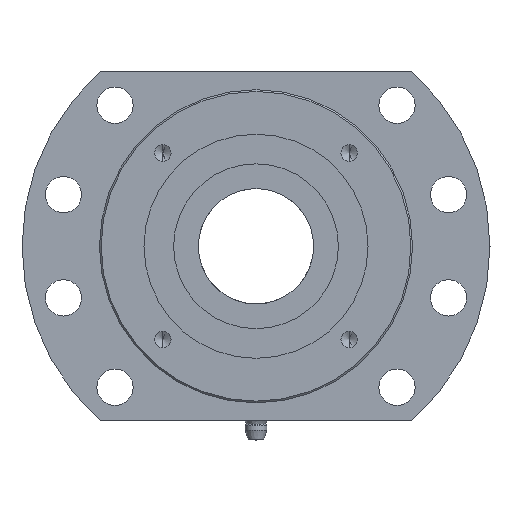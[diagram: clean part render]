
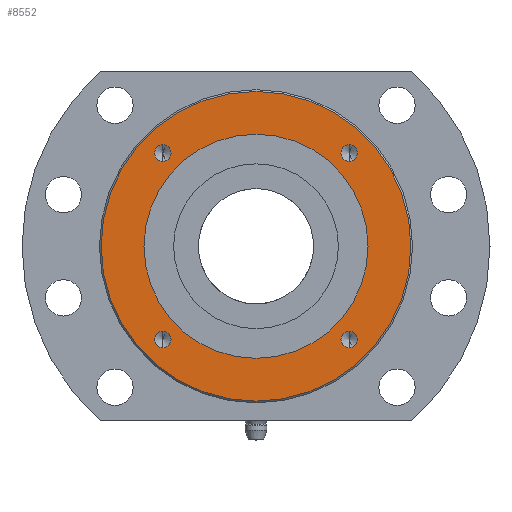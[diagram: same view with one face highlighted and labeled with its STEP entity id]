
A CAD part, left-side view. The second image highlights one B-rep face of the part: STEP entity #8552.
In plain terms, the highlighted planar face has unit normal (-1, 0, 0).
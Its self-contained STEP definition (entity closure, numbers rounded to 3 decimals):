
#206 = DIRECTION ( 'NONE',  ( 0., 1., 0. ) ) ;
#251 = EDGE_LOOP ( 'NONE', ( #21697, #4944 ) ) ;
#479 = ORIENTED_EDGE ( 'NONE', *, *, #3162, .F. ) ;
#1215 = CIRCLE ( 'NONE', #10796, 2.5 ) ;
#1422 = CARTESIAN_POINT ( 'NONE',  ( 0., -28.284, -28.284 ) ) ;
#1443 = DIRECTION ( 'NONE',  ( 0., 0., 1. ) ) ;
#1482 = EDGE_CURVE ( 'NONE', #13618, #5633, #9174, .T. ) ;
#1582 = DIRECTION ( 'NONE',  ( -1., 0., 0. ) ) ;
#1602 = VERTEX_POINT ( 'NONE', #15608 ) ;
#1621 = FACE_BOUND ( 'NONE', #3375, .T. ) ;
#2289 = CIRCLE ( 'NONE', #3981, 2.5 ) ;
#2592 = DIRECTION ( 'NONE',  ( 0., 0., 1. ) ) ;
#3051 = CIRCLE ( 'NONE', #21171, 2.5 ) ;
#3097 = ORIENTED_EDGE ( 'NONE', *, *, #20788, .F. ) ;
#3162 = EDGE_CURVE ( 'NONE', #9562, #6832, #2289, .T. ) ;
#3211 = CIRCLE ( 'NONE', #10756, 34. ) ;
#3286 = CIRCLE ( 'NONE', #17120, 2.5 ) ;
#3290 = EDGE_CURVE ( 'NONE', #7206, #17055, #4485, .T. ) ;
#3375 = EDGE_LOOP ( 'NONE', ( #6661, #22630 ) ) ;
#3562 = FACE_BOUND ( 'NONE', #11347, .T. ) ;
#3614 = ORIENTED_EDGE ( 'NONE', *, *, #22366, .F. ) ;
#3862 = EDGE_CURVE ( 'NONE', #6942, #4872, #15180, .T. ) ;
#3981 = AXIS2_PLACEMENT_3D ( 'NONE', #9516, #14949, #16864 ) ;
#4485 = CIRCLE ( 'NONE', #7905, 34. ) ;
#4872 = VERTEX_POINT ( 'NONE', #11011 ) ;
#4905 = DIRECTION ( 'NONE',  ( -1., 0., 0. ) ) ;
#4907 = AXIS2_PLACEMENT_3D ( 'NONE', #1422, #13639, #15467 ) ;
#4931 = CARTESIAN_POINT ( 'NONE',  ( 0., -28.284, 28.284 ) ) ;
#4944 = ORIENTED_EDGE ( 'NONE', *, *, #8035, .F. ) ;
#4961 = AXIS2_PLACEMENT_3D ( 'NONE', #22633, #1582, #13651 ) ;
#5007 = EDGE_LOOP ( 'NONE', ( #20610, #3097 ) ) ;
#5295 = ORIENTED_EDGE ( 'NONE', *, *, #9500, .F. ) ;
#5428 = CARTESIAN_POINT ( 'NONE',  ( 0., 0., 0. ) ) ;
#5633 = VERTEX_POINT ( 'NONE', #18001 ) ;
#5752 = AXIS2_PLACEMENT_3D ( 'NONE', #4931, #18994, #10291 ) ;
#6024 = DIRECTION ( 'NONE',  ( -1., 0., 0. ) ) ;
#6099 = CARTESIAN_POINT ( 'NONE',  ( 0., -28.284, -28.284 ) ) ;
#6175 = DIRECTION ( 'NONE',  ( 0., 0., 1. ) ) ;
#6297 = CARTESIAN_POINT ( 'NONE',  ( 0., 28.284, 30.784 ) ) ;
#6661 = ORIENTED_EDGE ( 'NONE', *, *, #3290, .F. ) ;
#6832 = VERTEX_POINT ( 'NONE', #11157 ) ;
#6942 = VERTEX_POINT ( 'NONE', #8309 ) ;
#7006 = DIRECTION ( 'NONE',  ( 0., -1., 0. ) ) ;
#7206 = VERTEX_POINT ( 'NONE', #13263 ) ;
#7671 = EDGE_CURVE ( 'NONE', #19740, #11300, #13135, .T. ) ;
#7684 = CARTESIAN_POINT ( 'NONE',  ( 0., -28.284, 28.284 ) ) ;
#7905 = AXIS2_PLACEMENT_3D ( 'NONE', #22268, #4905, #9883 ) ;
#7908 = DIRECTION ( 'NONE',  ( -1., 0., 0. ) ) ;
#8035 = EDGE_CURVE ( 'NONE', #5633, #13618, #3051, .T. ) ;
#8095 = CIRCLE ( 'NONE', #13850, 2.5 ) ;
#8309 = CARTESIAN_POINT ( 'NONE',  ( 0., -28.284, 30.784 ) ) ;
#8552 = ADVANCED_FACE ( 'NONE', ( #11493, #15574, #3562, #21592, #1621, #8706 ), #12615, .F. ) ;
#8601 = EDGE_CURVE ( 'NONE', #19936, #1602, #3286, .T. ) ;
#8706 = FACE_OUTER_BOUND ( 'NONE', #15439, .T. ) ;
#9174 = CIRCLE ( 'NONE', #4907, 2.5 ) ;
#9500 = EDGE_CURVE ( 'NONE', #4872, #6942, #20703, .T. ) ;
#9516 = CARTESIAN_POINT ( 'NONE',  ( 0., 28.284, -28.284 ) ) ;
#9562 = VERTEX_POINT ( 'NONE', #10468 ) ;
#9883 = DIRECTION ( 'NONE',  ( 0., -1., 0. ) ) ;
#10131 = DIRECTION ( 'NONE',  ( -1., 0., 0. ) ) ;
#10291 = DIRECTION ( 'NONE',  ( 0., 0., 1. ) ) ;
#10428 = CARTESIAN_POINT ( 'NONE',  ( 0., 28.284, -28.284 ) ) ;
#10468 = CARTESIAN_POINT ( 'NONE',  ( 0., 28.284, -30.784 ) ) ;
#10509 = DIRECTION ( 'NONE',  ( -1., 0., 0. ) ) ;
#10756 = AXIS2_PLACEMENT_3D ( 'NONE', #5428, #15707, #7006 ) ;
#10796 = AXIS2_PLACEMENT_3D ( 'NONE', #10428, #10131, #1443 ) ;
#10936 = CARTESIAN_POINT ( 'NONE',  ( 0., 34., 0. ) ) ;
#11011 = CARTESIAN_POINT ( 'NONE',  ( 0., -28.284, 25.784 ) ) ;
#11123 = DIRECTION ( 'NONE',  ( -1., 0., 0. ) ) ;
#11157 = CARTESIAN_POINT ( 'NONE',  ( 0., 28.284, -25.784 ) ) ;
#11300 = VERTEX_POINT ( 'NONE', #15519 ) ;
#11347 = EDGE_LOOP ( 'NONE', ( #3614, #479 ) ) ;
#11493 = FACE_BOUND ( 'NONE', #17697, .T. ) ;
#11652 = AXIS2_PLACEMENT_3D ( 'NONE', #7684, #11123, #21728 ) ;
#12164 = CARTESIAN_POINT ( 'NONE',  ( 0., -28.284, -25.784 ) ) ;
#12410 = CARTESIAN_POINT ( 'NONE',  ( 0., 28.284, 28.284 ) ) ;
#12420 = DIRECTION ( 'NONE',  ( 0., -1., 0. ) ) ;
#12494 = CARTESIAN_POINT ( 'NONE',  ( 0., 47., 0. ) ) ;
#12615 = PLANE ( 'NONE',  #20609 ) ;
#13034 = CARTESIAN_POINT ( 'NONE',  ( 0., 28.284, 28.284 ) ) ;
#13135 = CIRCLE ( 'NONE', #19567, 47. ) ;
#13263 = CARTESIAN_POINT ( 'NONE',  ( 0., -34., 0. ) ) ;
#13618 = VERTEX_POINT ( 'NONE', #12164 ) ;
#13639 = DIRECTION ( 'NONE',  ( -1., 0., 0. ) ) ;
#13651 = DIRECTION ( 'NONE',  ( 0., -1., 0. ) ) ;
#13850 = AXIS2_PLACEMENT_3D ( 'NONE', #13034, #7908, #2592 ) ;
#14101 = DIRECTION ( 'NONE',  ( 0., 0., 1. ) ) ;
#14561 = DIRECTION ( 'NONE',  ( -1., 0., 0. ) ) ;
#14949 = DIRECTION ( 'NONE',  ( -1., 0., 0. ) ) ;
#15180 = CIRCLE ( 'NONE', #5752, 2.5 ) ;
#15439 = EDGE_LOOP ( 'NONE', ( #19797, #16412 ) ) ;
#15467 = DIRECTION ( 'NONE',  ( 0., 0., 1. ) ) ;
#15519 = CARTESIAN_POINT ( 'NONE',  ( 0., -47., 0. ) ) ;
#15574 = FACE_BOUND ( 'NONE', #251, .T. ) ;
#15608 = CARTESIAN_POINT ( 'NONE',  ( 0., 28.284, 25.784 ) ) ;
#15707 = DIRECTION ( 'NONE',  ( -1., 0., 0. ) ) ;
#16412 = ORIENTED_EDGE ( 'NONE', *, *, #20612, .T. ) ;
#16676 = ORIENTED_EDGE ( 'NONE', *, *, #3862, .F. ) ;
#16864 = DIRECTION ( 'NONE',  ( 0., 0., 1. ) ) ;
#17055 = VERTEX_POINT ( 'NONE', #18324 ) ;
#17120 = AXIS2_PLACEMENT_3D ( 'NONE', #12410, #14561, #14101 ) ;
#17312 = CARTESIAN_POINT ( 'NONE',  ( 0., 0., 0. ) ) ;
#17697 = EDGE_LOOP ( 'NONE', ( #16676, #5295 ) ) ;
#18001 = CARTESIAN_POINT ( 'NONE',  ( 0., -28.284, -30.784 ) ) ;
#18324 = CARTESIAN_POINT ( 'NONE',  ( 0., 34., 0. ) ) ;
#18507 = CIRCLE ( 'NONE', #4961, 47. ) ;
#18994 = DIRECTION ( 'NONE',  ( -1., 0., 0. ) ) ;
#19489 = DIRECTION ( 'NONE',  ( 1., 0., 0. ) ) ;
#19567 = AXIS2_PLACEMENT_3D ( 'NONE', #17312, #10509, #12420 ) ;
#19740 = VERTEX_POINT ( 'NONE', #12494 ) ;
#19797 = ORIENTED_EDGE ( 'NONE', *, *, #7671, .T. ) ;
#19936 = VERTEX_POINT ( 'NONE', #6297 ) ;
#20609 = AXIS2_PLACEMENT_3D ( 'NONE', #10936, #19489, #206 ) ;
#20610 = ORIENTED_EDGE ( 'NONE', *, *, #8601, .F. ) ;
#20612 = EDGE_CURVE ( 'NONE', #11300, #19740, #18507, .T. ) ;
#20667 = EDGE_CURVE ( 'NONE', #17055, #7206, #3211, .T. ) ;
#20703 = CIRCLE ( 'NONE', #11652, 2.5 ) ;
#20788 = EDGE_CURVE ( 'NONE', #1602, #19936, #8095, .T. ) ;
#21171 = AXIS2_PLACEMENT_3D ( 'NONE', #6099, #6024, #6175 ) ;
#21592 = FACE_BOUND ( 'NONE', #5007, .T. ) ;
#21697 = ORIENTED_EDGE ( 'NONE', *, *, #1482, .F. ) ;
#21728 = DIRECTION ( 'NONE',  ( 0., 0., 1. ) ) ;
#22268 = CARTESIAN_POINT ( 'NONE',  ( 0., 0., 0. ) ) ;
#22366 = EDGE_CURVE ( 'NONE', #6832, #9562, #1215, .T. ) ;
#22630 = ORIENTED_EDGE ( 'NONE', *, *, #20667, .F. ) ;
#22633 = CARTESIAN_POINT ( 'NONE',  ( 0., 0., 0. ) ) ;
